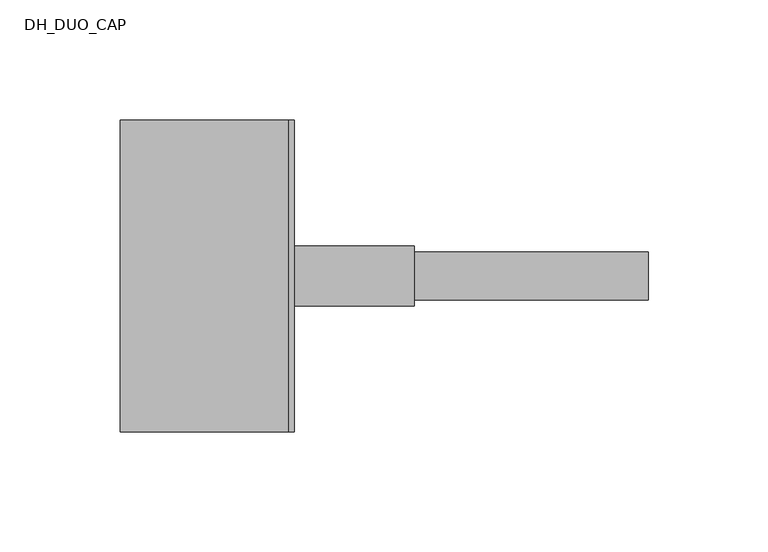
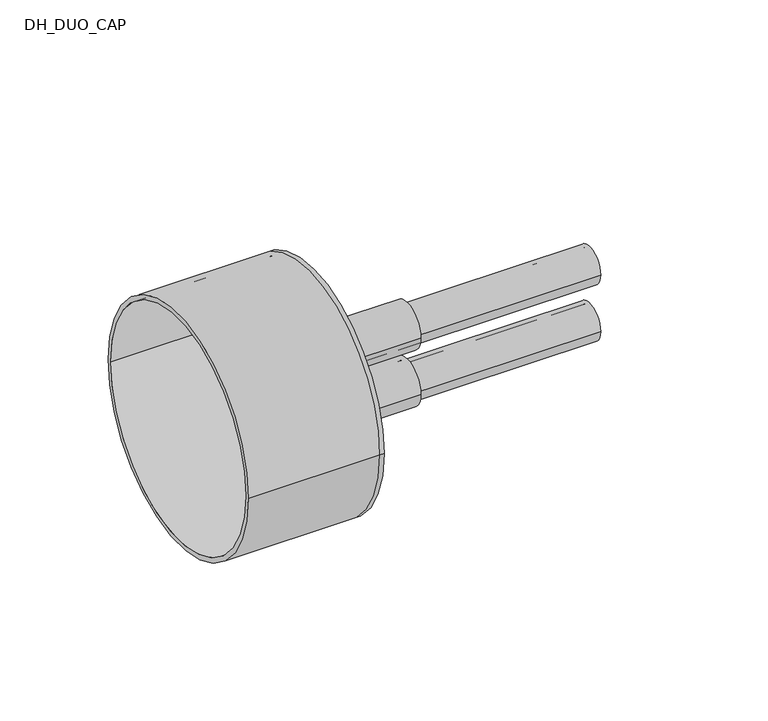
"""IFC4 building model written with IfcOpenShell, lengths in millimetres: pipe fitting geometry, DH_DUO_CAP : RAUVIPEX DUO 11 Heating - Rubber Cap."""

from ifc_helpers import new_model, si_unit, point, frame, frame_2d, origin, place, context, project, spatial, polyline, circle_curve, trimmed, segment, composite_curve, outline, extrude, source, transform, mapped, element, save
from ifc_brep_helpers import plane_surface, cylinder_surface, revolved_surface, advanced_brep


def dh_duo_cap_bd780a9d(model_context):
    return source(origin(), model_context, "Body", "SolidModel", [
        extrude(outline(composite_curve([segment(trimmed(circle_curve(frame_2d((0.0, -16.0)), 10.0), [point((-10.0, -16.0))], [point((10.0, -16.0))], False, "CARTESIAN"), True, "CONTINUOUS"), segment(trimmed(circle_curve(frame_2d((0.0, -16.0)), 10.0), [point((10.0, -16.0))], [point((-10.0, -16.0))], False, "CARTESIAN"), True, "CONTINUOUS")], self_intersect=False), holes=[composite_curve([segment(trimmed(circle_curve(frame_2d((0.0, -16.0)), 8.1), [point((-8.1, -16.0))], [point((8.1, -16.0))], True, "CARTESIAN"), True, "CONTINUOUS"), segment(trimmed(circle_curve(frame_2d((0.0, -16.0)), 8.1), [point((8.1, -16.0))], [point((-8.1, -16.0))], True, "CARTESIAN"), True, "CONTINUOUS")], self_intersect=False)]), frame((0.0, 0.0, 0.0), z_axis=(1.0, 0.0, 0.0), x_axis=(0.0, 1.0, 0.0)), (0.0, 0.0, 1.0), 150.0),
        extrude(outline(composite_curve([segment(trimmed(circle_curve(frame_2d((0.0, 16.0)), 10.0), [point((-10.0, 16.0))], [point((10.0, 16.0))], False, "CARTESIAN"), True, "CONTINUOUS"), segment(trimmed(circle_curve(frame_2d((0.0, 16.0)), 10.0), [point((10.0, 16.0))], [point((-10.0, 16.0))], False, "CARTESIAN"), True, "CONTINUOUS")], self_intersect=False), holes=[composite_curve([segment(trimmed(circle_curve(frame_2d((0.0, 16.0)), 8.1), [point((-8.1, 16.0))], [point((8.1, 16.0))], True, "CARTESIAN"), True, "CONTINUOUS"), segment(trimmed(circle_curve(frame_2d((0.0, 16.0)), 8.1), [point((8.1, 16.0))], [point((-8.1, 16.0))], True, "CARTESIAN"), True, "CONTINUOUS")], self_intersect=False)]), frame((0.0, 0.0, 0.0), z_axis=(1.0, 0.0, 0.0), x_axis=(0.0, 1.0, 0.0)), (0.0, 0.0, 1.0), 150.0),
        advanced_brep(
        [(-70.0, -65.0, 0.0), (-70.0, 65.0, 0.0), (-70.0, -62.5, 0.0), (-70.0, 62.5, 0.0), (0.0, -62.5, 0.0), (0.0, 62.5, 0.0), (0.0, -65.0, 0.0), (0.0, 65.0, 0.0), (0.0, 10.0, 16.0), (0.0, -10.0, 16.0), (0.0, 10.0, -16.0), (0.0, -10.0, -16.0), (2.5, -65.0, 0.0), (2.5, 65.0, 0.0), (2.5, -10.0, 16.0), (2.5, 10.0, 16.0), (2.5, -10.0, -16.0), (2.5, 10.0, -16.0)],
        [
            (0, 1, circle_curve(frame((-70.0, 0.0, 0.0), z_axis=(-1.0, 0.0, 0.0), x_axis=(0.0, 1.0, 0.0)), 65.0)),
            (1, 0, circle_curve(frame((-70.0, 0.0, 0.0), z_axis=(-1.0, 0.0, 0.0), x_axis=(0.0, 1.0, 0.0)), 65.0)),
            (2, 3, circle_curve(frame((-70.0, 0.0, 0.0), z_axis=(1.0, 0.0, 0.0), x_axis=(0.0, 1.0, 0.0)), 62.5)),
            (3, 2, circle_curve(frame((-70.0, 0.0, 0.0), z_axis=(1.0, 0.0, 0.0), x_axis=(0.0, 1.0, 0.0)), 62.5)),
            (2, 4),
            (4, 5, circle_curve(frame((0.0, 0.0, 0.0), z_axis=(1.0, 0.0, 0.0), x_axis=(0.0, 1.0, 0.0)), 62.5)),
            (5, 3),
            (5, 4, circle_curve(frame((0.0, 0.0, 0.0), z_axis=(1.0, 0.0, 0.0), x_axis=(0.0, 1.0, 0.0)), 62.5)),
            (0, 6),
            (6, 7, circle_curve(frame((0.0, 0.0, 0.0), z_axis=(-1.0, 0.0, 0.0), x_axis=(0.0, 1.0, 0.0)), 65.0)),
            (7, 1),
            (7, 6, circle_curve(frame((0.0, 0.0, 0.0), z_axis=(-1.0, 0.0, 0.0), x_axis=(0.0, 1.0, 0.0)), 65.0)),
            (8, 9, circle_curve(frame((0.0, 0.0, 16.0), z_axis=(1.0, 0.0, 0.0), x_axis=(0.0, 1.0, 0.0)), 10.0)),
            (9, 8, circle_curve(frame((0.0, 0.0, 16.0), z_axis=(1.0, 0.0, 0.0), x_axis=(0.0, 1.0, 0.0)), 10.0)),
            (10, 11, circle_curve(frame((0.0, 0.0, -16.0), z_axis=(1.0, 0.0, 0.0), x_axis=(0.0, 1.0, 0.0)), 10.0)),
            (11, 10, circle_curve(frame((0.0, 0.0, -16.0), z_axis=(1.0, 0.0, 0.0), x_axis=(0.0, 1.0, 0.0)), 10.0)),
            (12, 13, circle_curve(frame((2.5, 0.0, 0.0), z_axis=(1.0, 0.0, 0.0), x_axis=(0.0, 1.0, 0.0)), 65.0)),
            (13, 12, circle_curve(frame((2.5, 0.0, 0.0), z_axis=(1.0, 0.0, 0.0), x_axis=(0.0, 1.0, 0.0)), 65.0)),
            (14, 15, circle_curve(frame((2.5, 0.0, 16.0), z_axis=(-1.0, 0.0, 0.0), x_axis=(0.0, 1.0, 0.0)), 10.0)),
            (15, 14, circle_curve(frame((2.5, 0.0, 16.0), z_axis=(-1.0, 0.0, 0.0), x_axis=(0.0, 1.0, 0.0)), 10.0)),
            (16, 17, circle_curve(frame((2.5, 0.0, -16.0), z_axis=(-1.0, 0.0, 0.0), x_axis=(0.0, 1.0, 0.0)), 10.0)),
            (17, 16, circle_curve(frame((2.5, 0.0, -16.0), z_axis=(-1.0, 0.0, 0.0), x_axis=(0.0, 1.0, 0.0)), 10.0)),
            (13, 7),
            (6, 12),
            (8, 15),
            (14, 9),
            (10, 17),
            (16, 11),
        ],
        [
            plane_surface(frame((-70.0, 0.0, 0.0), z_axis=(-1.0, 0.0, 0.0), x_axis=(0.0, 0.0, 1.0))),
            revolved_surface(polyline([(0.0, 62.5, 0.0), (-70.0, 62.5, 0.0)]), (-70.0, 0.0, 0.0), (1.0, 0.0, 0.0)),
            cylinder_surface(frame((-70.0, 0.0, 0.0), z_axis=(-1.0, 0.0, 0.0), x_axis=(0.0, 1.0, 0.0)), 65.0),
            plane_surface(frame((0.0, 0.0, 0.0), z_axis=(-1.0, 0.0, 0.0), x_axis=(0.0, 0.0, 1.0))),
            plane_surface(frame((2.5, 0.0, 0.0), z_axis=(1.0, 0.0, 0.0), x_axis=(0.0, 0.0, 1.0))),
            cylinder_surface(frame((0.0, 0.0, 0.0), z_axis=(-1.0, 0.0, 0.0), x_axis=(0.0, 1.0, 0.0)), 65.0),
            revolved_surface(polyline([(0.0, 10.0, 16.0), (2.5, 10.0, 16.0)]), (0.0, 0.0, 16.0), (-1.0, 0.0, 0.0)),
            revolved_surface(polyline([(0.0, 10.0, -16.0), (2.5, 10.0, -16.0)]), (0.0, 0.0, -16.0), (-1.0, 0.0, 0.0)),
        ],
        [
            (0, [[1, 2], [3, 4]]),
            (1, [[-3, 5, 6, 7]]),
            (1, [[-4, -7, 8, -5]]),
            (2, [[-1, 9, 10, 11]]),
            (2, [[-2, -11, 12, -9]]),
            (3, [[-6, -8], [13, 14], [15, 16]]),
            (4, [[17, 18], [19, 20], [21, 22]]),
            (5, [[-18, 23, -10, 24]]),
            (5, [[-17, -24, -12, -23]]),
            (6, [[25, -19, 26, -13]]),
            (6, [[-25, -14, -26, -20]]),
            (7, [[27, -21, 28, -15]]),
            (7, [[-27, -16, -28, -22]]),
        ],
    ),
        extrude(outline(composite_curve([segment(trimmed(circle_curve(frame_2d((0.0, -16.0)), 12.5), [point((-12.5, -16.0))], [point((12.5, -16.0))], False, "CARTESIAN"), True, "CONTINUOUS"), segment(trimmed(circle_curve(frame_2d((0.0, -16.0)), 12.5), [point((12.5, -16.0))], [point((-12.5, -16.0))], False, "CARTESIAN"), True, "CONTINUOUS")], self_intersect=False), holes=[composite_curve([segment(trimmed(circle_curve(frame_2d((0.0, -16.0)), 10.0), [point((-10.0, -16.0))], [point((10.0, -16.0))], True, "CARTESIAN"), True, "CONTINUOUS"), segment(trimmed(circle_curve(frame_2d((0.0, -16.0)), 10.0), [point((10.0, -16.0))], [point((-10.0, -16.0))], True, "CARTESIAN"), True, "CONTINUOUS")], self_intersect=False)]), frame((2.5, 0.0, 0.0), z_axis=(1.0, 0.0, 0.0), x_axis=(0.0, 1.0, 0.0)), (0.0, 0.0, 1.0), 50.0),
        extrude(outline(composite_curve([segment(trimmed(circle_curve(frame_2d((0.0, 16.0)), 12.5), [point((-12.5, 16.0))], [point((12.5, 16.0))], False, "CARTESIAN"), True, "CONTINUOUS"), segment(trimmed(circle_curve(frame_2d((0.0, 16.0)), 12.5), [point((12.5, 16.0))], [point((-12.5, 16.0))], False, "CARTESIAN"), True, "CONTINUOUS")], self_intersect=False), holes=[composite_curve([segment(trimmed(circle_curve(frame_2d((0.0, 16.0)), 10.0), [point((-10.0, 16.0))], [point((10.0, 16.0))], True, "CARTESIAN"), True, "CONTINUOUS"), segment(trimmed(circle_curve(frame_2d((0.0, 16.0)), 10.0), [point((10.0, 16.0))], [point((-10.0, 16.0))], True, "CARTESIAN"), True, "CONTINUOUS")], self_intersect=False)]), frame((2.5, 0.0, 0.0), z_axis=(1.0, 0.0, 0.0), x_axis=(0.0, 1.0, 0.0)), (0.0, 0.0, 1.0), 50.0),
    ])


if __name__ == "__main__":
    model = new_model("IFC4")
    model_context = context("Model", 3, world=origin())
    ifc_project = project(units=[si_unit("LENGTHUNIT", "METRE", prefix="MILLI")], contexts=[model_context])
    site = spatial("IfcSite", under=ifc_project)
    building = spatial("IfcBuilding", under=site)
    placement = place(None, origin())
    dh_duo_cap_shape = dh_duo_cap_bd780a9d(model_context)
    element("IfcPipeFitting", 1, ObjectType="DH_DUO_CAP : RAUVIPEX DUO 11 Heating - Rubber Cap", at=placement, inside=building, context=model_context, shape_type="MappedRepresentation", body=[
        mapped(dh_duo_cap_shape, transform((0.0, 0.0, 0.0), x_axis=(1.0, 0.0, 0.0), y_axis=(0.0, 1.0, 0.0), z_axis=(0.0, 0.0, 1.0))),
    ])
    save(model, "model.ifc")
